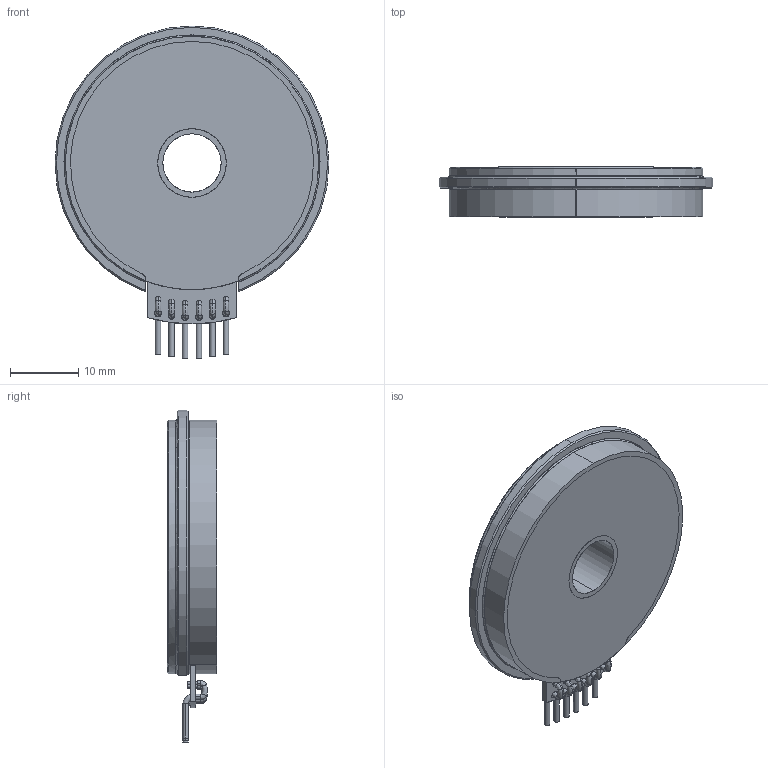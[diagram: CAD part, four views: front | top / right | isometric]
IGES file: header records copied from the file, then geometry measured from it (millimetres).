
Start section: SolidWorks IGES file using analytic representation for surfaces
Global section: file name: C:\Zettlex Data\Mechanical Drawings\4114\37mm Servo Clamp Stator Rev 1-0.IGS; native system: SolidWorks 2015; preprocessor: SolidWorks 2015; author: Nigel; date: 150904.161953; units: millimetre
Bounding box: 40 x 7.25 x 48.48 mm (x, y, z)
Surface area: 7288.6 mm2 (no closed solid volume)
Topology: 0 solids, 0 shells, 821 faces, 8807 edges, 8807 vertices
Faces by surface type: bspline 716, revolution 105
